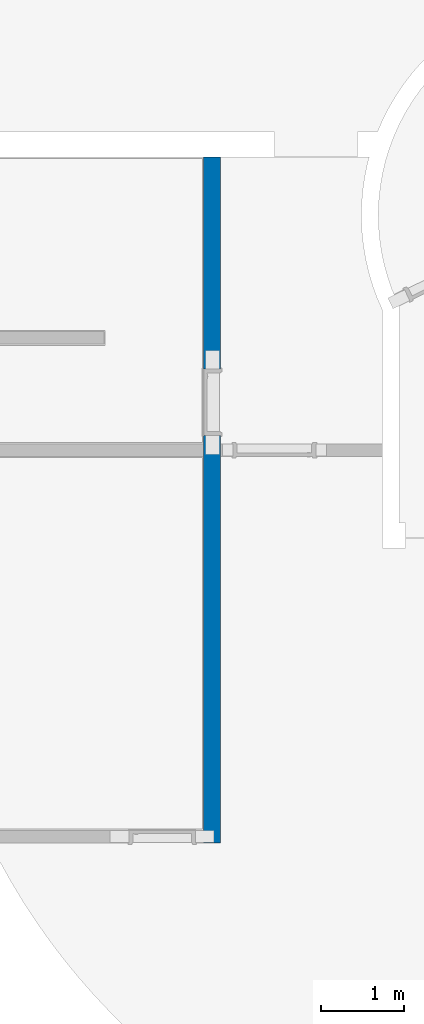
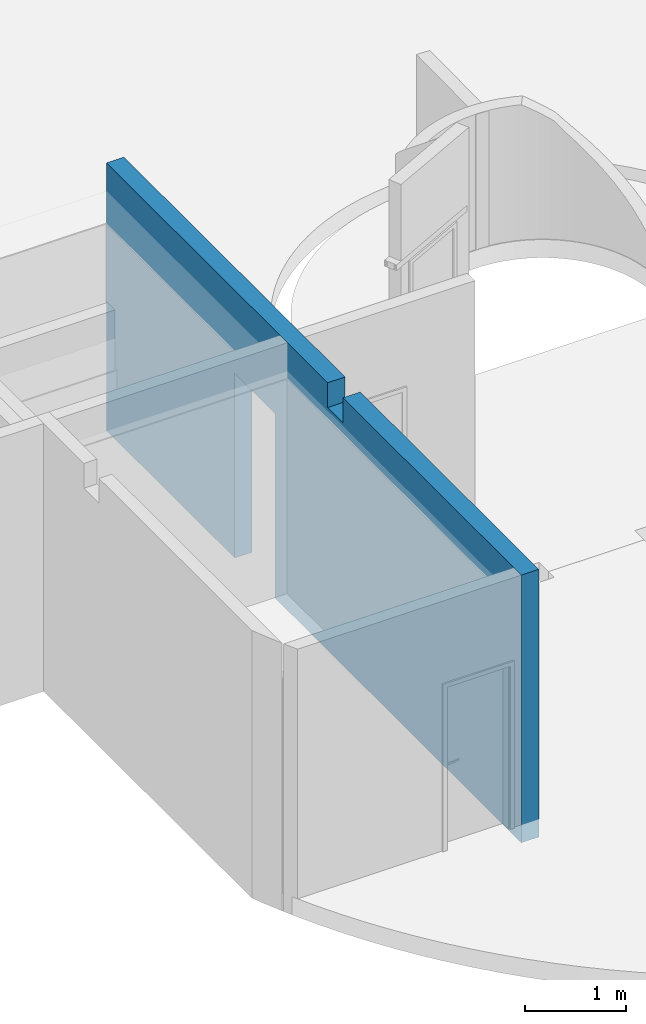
# One storey, part 12 of 21: 1 wall, 1 opening.
"""IFC4 building model written with IfcOpenShell, lengths in millimetres."""

from ifc_helpers import new_model, entity, si_unit, converted_unit, derived_unit, direction, frame, origin_with_axes, place, context, subcontext, project, spatial, polygons, material, constituent, constituent_set, type_object, element, save


model = new_model("IFC4")

# Units and contexts
model_context = context("Model", 3, precision=0.01, world=origin_with_axes(), true_north=direction((0.0, 1.0)))
body_context = subcontext(model_context, "Body", "Model", "MODEL_VIEW")
ifc_project = project(units=[si_unit("LENGTHUNIT", "METRE", prefix="MILLI"), si_unit("AREAUNIT", "SQUARE_METRE"), si_unit("VOLUMEUNIT", "CUBIC_METRE"), converted_unit("PLANEANGLEUNIT", "DEGREE", entity("IfcPlaneAngleMeasure", 0.0174532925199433), si_unit("PLANEANGLEUNIT", "RADIAN"), dimensions=[0, 0, 0, 0, 0, 0, 0]), converted_unit("TIMEUNIT", "Year", entity("IfcTimeMeasure", 31557600.0), si_unit("TIMEUNIT", "SECOND"), dimensions=[0, 0, 1, 0, 0, 0, 0]), si_unit("MASSUNIT", "GRAM", prefix="KILO"), si_unit("THERMODYNAMICTEMPERATUREUNIT", "DEGREE_CELSIUS"), si_unit("LUMINOUSINTENSITYUNIT", "LUMEN"), si_unit("ENERGYUNIT", "JOULE", prefix="MEGA"), derived_unit("THERMALCONDUCTANCEUNIT", [(si_unit("POWERUNIT", "WATT"), 1), (si_unit("LENGTHUNIT", "METRE"), -1), (si_unit("THERMODYNAMICTEMPERATUREUNIT", "KELVIN"), -1)]), derived_unit("SPECIFICHEATCAPACITYUNIT", [(si_unit("ENERGYUNIT", "JOULE"), 1), (si_unit("MASSUNIT", "GRAM", prefix="KILO"), -1), (si_unit("THERMODYNAMICTEMPERATUREUNIT", "KELVIN"), -1)]), derived_unit("MASSDENSITYUNIT", [(si_unit("MASSUNIT", "GRAM", prefix="KILO"), 1), (si_unit("VOLUMEUNIT", "CUBIC_METRE"), -1)])], contexts=[model_context])

# Site, building, storey
site_placement = place(None, origin_with_axes())
site = spatial("IfcSite", under=ifc_project, at=site_placement, Name="Exteriér", CompositionType="ELEMENT")
building_placement = place(site_placement, origin_with_axes())
building = spatial("IfcBuilding", under=site, at=building_placement, Name="Univerzitní lezecké centrum", CompositionType="ELEMENT")
storey_placement = place(building_placement, frame((0.0, 0.0, -3350.0), z_axis=(0.0, 0.0, 1.0), x_axis=(1.0, 0.0, 0.0)))
storey = spatial("IfcBuildingStorey", under=building, at=storey_placement, Name="1.PP", CompositionType="ELEMENT", Elevation=-3350.0)

# Wall, opening
ifc_material = material(Name="Keramické tvárnice nenosné tl 200 mm")
ifc_constituent = constituent(ifc_material, Name="Keramické tvárnice nenosné tl 200 mm")
ifc_constituent_set = constituent_set(constituents=[ifc_constituent], Name="!Vnitřní keramická stěna 200 mm - nenosná*")
wall_type = type_object("IfcWallType", Name="!Vnitřní keramická stěna 200 mm - nenosná* 200", PredefinedType="NOTDEFINED")
wall_placement = place(storey_placement, frame((-1950.408868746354, 4700.000000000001, -220.0000000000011), z_axis=(0.0, 0.0, 1.0), x_axis=(0.0, -1.0, 0.0)))
wall = element("IfcWall", 1, at=wall_placement, inside=storey, type_object=wall_type, material=ifc_constituent_set, Name="St06*", PredefinedType="NOTDEFINED", context=body_context, shape_type="Tessellation", body=[
    polygons([(2850.00009049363, -8.727080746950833e-05, 0.500000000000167), (2850.00009049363, -8.727080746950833e-05, 0.0), (299.9999999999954, 0.0, 0.0), (299.9999999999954, 0.0, 3250.0), (4699.999999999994, 0.0, 3250.0), (4699.999999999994, 0.0, 2950.0), (4999.999999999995, 0.0, 2950.0), (4999.999999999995, 0.0, 3250.0), (8550.000000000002, 0.0, 3250.0), (8550.000000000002, 0.0, 0.0), (3650.000070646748, -8.727080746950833e-05, 0.0), (3650.000070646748, -8.727080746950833e-05, 0.500000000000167), (3650.0, 0.0, 220.0000000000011), (3650.0, 0.0, 2240.000000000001), (2850.0, 0.0, 2240.000000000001), (2850.0, 0.0, 220.0000000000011), (2850.00009049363, -200.0000349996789, 0.500000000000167), (2850.00009049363, -200.0000349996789, 0.0), (299.9999999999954, -200.0000000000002, 0.0), (299.9999999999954, -199.9999999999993, 3250.0), (4699.999999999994, -200.0000000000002, 3250.0), (4699.999999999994, -200.0000000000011, 2950.0), (4999.999999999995, -200.0000000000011, 2950.0), (4999.999999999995, -200.0000000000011, 3250.0), (8550.000000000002, -200.0000000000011, 3250.0), (8550.000000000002, -200.0000000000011, 0.0), (3650.000070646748, -200.0000349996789, 0.0), (3650.000070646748, -200.0000349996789, 0.500000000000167), (3650.0, -200.0000000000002, 220.0000000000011), (3650.0, -200.0000000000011, 2240.000000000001), (2850.0, -200.0000000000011, 2240.000000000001), (2850.0, -200.0000000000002, 220.0000000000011)], [[[1, 2, 3, 4, 5, 6, 7, 8, 9, 10, 11, 12, 13, 14, 15, 16]], [[2, 1, 17, 18]], [[2, 18, 19, 3]], [[3, 19, 20, 4]], [[20, 21, 5, 4]], [[22, 6, 5, 21]], [[23, 7, 6, 22]], [[23, 24, 8, 7]], [[9, 8, 24, 25]], [[10, 9, 25, 26]], [[27, 11, 10, 26]], [[28, 12, 11, 27]], [[12, 28, 29, 13]], [[29, 30, 14, 13]], [[30, 31, 15, 14]], [[31, 32, 16, 15]], [[17, 1, 16, 32]], [[18, 17, 32, 31, 30, 29, 28, 27, 26, 25, 24, 23, 22, 21, 20, 19]]], closed=True),
    polygons([(3875.0, -179.9999989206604, 2246.000000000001), (3875.0, -179.9999989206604, 2483.6644745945), (3875.0, -109.9999999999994, 2483.664479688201), (3875.0, -109.9999999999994, 2484.000000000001), (3875.0, -80.00000000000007, 2484.000000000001), (3875.0, -79.99998239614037, 2483.664479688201), (3875.0, -10.00000107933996, 2483.6644745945), (3875.0, -10.00000107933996, 2246.000000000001), (2625.0, -179.9999989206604, 2246.000000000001), (2625.0, -179.9999989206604, 2483.6644745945), (2625.0, -109.9999999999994, 2483.664479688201), (2625.0, -109.9999999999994, 2484.000000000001), (2625.0, -80.00000000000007, 2484.000000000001), (2625.0, -79.99998239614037, 2483.664479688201), (2625.0, -10.00000107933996, 2483.6644745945), (2625.0, -10.00000107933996, 2246.000000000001)], [[[1, 2, 3, 4, 5, 6, 7, 8]], [[2, 1, 9, 10]], [[10, 11, 3, 2]], [[4, 3, 11, 12]], [[4, 12, 13, 5]], [[14, 6, 5, 13]], [[6, 14, 15, 7]], [[16, 8, 7, 15]], [[1, 8, 16, 9]], [[16, 15, 14, 13, 12, 11, 10, 9]]], closed=True),
])
opening_placement = place(wall_placement, frame((3250.000000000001, 0.0, 220.0000000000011), z_axis=(0.0, 0.0, 1.0), x_axis=(1.0, 0.0, 0.0)))
element("IfcOpeningElement", 2, at=opening_placement, cuts=wall, Name="D19", context=body_context, identifier="Reference", shape_type="Tessellation", body=[
    polygons([(-399.9999999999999, -200.0000000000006, 0.0), (-399.9999999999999, -200.0000000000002, 2020.0), (-399.9999999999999, 0.0, 2020.0), (-399.9999999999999, 0.0, 0.0), (400.0000000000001, -200.0000000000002, 2020.0), (-411.9999999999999, -200.0000000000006, 0.0), (-411.9999999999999, -200.0000000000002, 2032.0), (411.9999999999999, -200.0000000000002, 2032.0), (411.9999999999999, -200.0000000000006, 0.0), (400.0000000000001, -200.0000000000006, 0.0), (400.0000000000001, 0.0, 2020.0), (400.0000000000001, 0.0, 0.0), (412.0000000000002, 0.0, 0.0), (412.0000000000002, 0.0, 2032.0), (-411.9999999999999, 0.0, 2032.0), (-411.9999999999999, 0.0, 0.0), (-399.9999999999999, -201.000000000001, 0.0), (-399.9999999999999, 1.000000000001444, 0.0), (400.0000000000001, 1.000000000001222, 0.0), (400.0000000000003, -201.000000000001, 0.0), (-411.9999999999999, -201.000000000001, 0.0), (-411.9999999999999, -201.0000000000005, 2032.0), (411.9999999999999, -201.0000000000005, 2032.0), (411.9999999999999, -201.000000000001, 0.0), (412.0000000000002, 1.000000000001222, 0.0), (412.0000000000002, 1.000000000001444, 2032.0), (-411.9999999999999, 1.000000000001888, 2032.0), (-411.9999999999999, 1.000000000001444, 0.0), (-399.9999999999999, -201.0000000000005, 2020.0), (400.0000000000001, -201.0000000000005, 2020.0)], [[[1, 2, 3, 4]], [[5, 2, 1, 6, 7, 8, 9, 10]], [[2, 5, 11, 3]], [[4, 3, 11, 12, 13, 14, 15, 16]], [[17, 1, 4, 18, 19, 12, 10, 20]], [[1, 17, 21, 6]], [[7, 6, 21, 22]], [[8, 7, 22, 23]], [[9, 8, 23, 24]], [[20, 10, 9, 24]], [[5, 10, 12, 11]], [[12, 19, 25, 13]], [[14, 13, 25, 26]], [[15, 14, 26, 27]], [[16, 15, 27, 28]], [[18, 4, 16, 28]], [[18, 28, 27, 26, 25, 19]], [[29, 17, 20, 30]], [[17, 29, 30, 20, 24, 23, 22, 21]]], closed=True),
])

save(model, "model.ifc")
